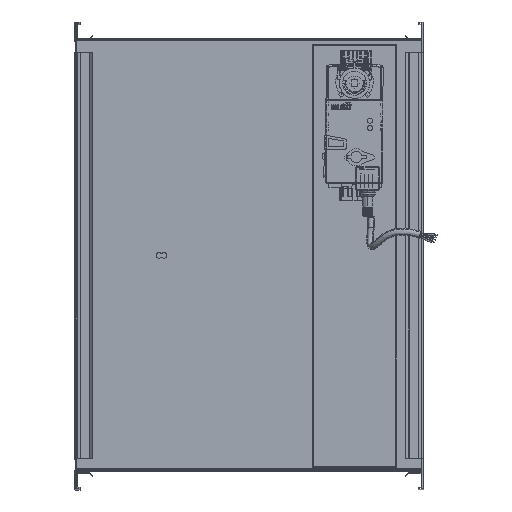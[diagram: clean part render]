
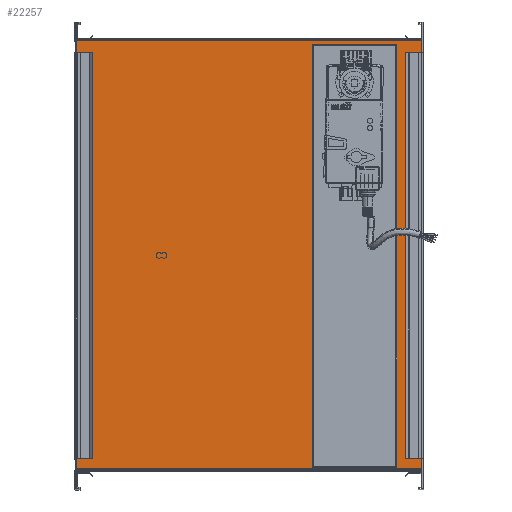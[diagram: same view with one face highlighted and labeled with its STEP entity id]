
A CAD part, top view. The second image highlights one B-rep face of the part: STEP entity #22257.
In plain terms, the highlighted planar face has unit normal (0, 0, 1).
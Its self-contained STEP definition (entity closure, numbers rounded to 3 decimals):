
#316 = CARTESIAN_POINT ( 'NONE',  ( -244.423, -233.848, 1500. ) ) ;
#2920 = CARTESIAN_POINT ( 'NONE',  ( 155.577, -233.848, 1500. ) ) ;
#3114 = VECTOR ( 'NONE', #21770, 1000. ) ;
#4159 = VECTOR ( 'NONE', #67789, 1000. ) ;
#5057 = CARTESIAN_POINT ( 'NONE',  ( 155.577, -233.848, 1500. ) ) ;
#5108 = CARTESIAN_POINT ( 'NONE',  ( 28.454, -232.348, 1500. ) ) ;
#5870 = EDGE_CURVE ( 'NONE', #27971, #62936, #72359, .T. ) ;
#8343 = DIRECTION ( 'NONE',  ( 0., 1., 0. ) ) ;
#9257 = ORIENTED_EDGE ( 'NONE', *, *, #83913, .T. ) ;
#11063 = ORIENTED_EDGE ( 'NONE', *, *, #13628, .F. ) ;
#11260 = CARTESIAN_POINT ( 'NONE',  ( -244.423, 262.152, 1500. ) ) ;
#13628 = EDGE_CURVE ( 'NONE', #57174, #19768, #16874, .T. ) ;
#15035 = EDGE_CURVE ( 'NONE', #23125, #57174, #70431, .T. ) ;
#16874 = LINE ( 'NONE', #29637, #83189 ) ;
#16964 = LINE ( 'NONE', #11260, #40986 ) ;
#17894 = DIRECTION ( 'NONE',  ( 1., 0., 0. ) ) ;
#19768 = VERTEX_POINT ( 'NONE', #56372 ) ;
#19952 = PLANE ( 'NONE',  #49289 ) ;
#21770 = DIRECTION ( 'NONE',  ( 0., -1., 0. ) ) ;
#21785 = CARTESIAN_POINT ( 'NONE',  ( -244.423, -233.848, 1500. ) ) ;
#22257 = ADVANCED_FACE ( 'NONE', ( #72372, #28862 ), #19952, .T. ) ;
#22948 = VECTOR ( 'NONE', #48609, 1000. ) ;
#23125 = VERTEX_POINT ( 'NONE', #52227 ) ;
#25842 = EDGE_CURVE ( 'NONE', #60914, #54596, #69846, .T. ) ;
#25931 = VECTOR ( 'NONE', #34464, 1000. ) ;
#27971 = VERTEX_POINT ( 'NONE', #39149 ) ;
#28862 = FACE_OUTER_BOUND ( 'NONE', #84451, .T. ) ;
#29637 = CARTESIAN_POINT ( 'NONE',  ( 126.454, -232.348, 1500. ) ) ;
#31067 = CARTESIAN_POINT ( 'NONE',  ( -244.423, -233.848, 1500. ) ) ;
#34464 = DIRECTION ( 'NONE',  ( 1., 0., 0. ) ) ;
#38317 = CARTESIAN_POINT ( 'NONE',  ( 28.454, 257.652, 1500. ) ) ;
#39149 = CARTESIAN_POINT ( 'NONE',  ( -244.423, 262.152, 1500. ) ) ;
#40986 = VECTOR ( 'NONE', #17894, 1000. ) ;
#42425 = EDGE_CURVE ( 'NONE', #52886, #23125, #56182, .T. ) ;
#46681 = EDGE_CURVE ( 'NONE', #19768, #52886, #67537, .T. ) ;
#48609 = DIRECTION ( 'NONE',  ( 0., -1., 0. ) ) ;
#49289 = AXIS2_PLACEMENT_3D ( 'NONE', #21785, #63449, #50603 ) ;
#50603 = DIRECTION ( 'NONE',  ( 1., 0., 0. ) ) ;
#51658 = DIRECTION ( 'NONE',  ( 0., -1., 0. ) ) ;
#52227 = CARTESIAN_POINT ( 'NONE',  ( 28.454, -232.348, 1500. ) ) ;
#52886 = VERTEX_POINT ( 'NONE', #38317 ) ;
#54488 = ORIENTED_EDGE ( 'NONE', *, *, #15035, .F. ) ;
#54596 = VERTEX_POINT ( 'NONE', #5057 ) ;
#55638 = EDGE_CURVE ( 'NONE', #27971, #60914, #16964, .T. ) ;
#55648 = ORIENTED_EDGE ( 'NONE', *, *, #55638, .F. ) ;
#56150 = EDGE_LOOP ( 'NONE', ( #63148, #11063, #54488, #69762 ) ) ;
#56182 = LINE ( 'NONE', #5108, #22948 ) ;
#56372 = CARTESIAN_POINT ( 'NONE',  ( 126.454, 257.652, 1500. ) ) ;
#57174 = VERTEX_POINT ( 'NONE', #85513 ) ;
#57268 = VECTOR ( 'NONE', #51658, 1000. ) ;
#58378 = CARTESIAN_POINT ( 'NONE',  ( -244.423, -233.848, 1500. ) ) ;
#59313 = LINE ( 'NONE', #58378, #4159 ) ;
#59725 = CARTESIAN_POINT ( 'NONE',  ( 155.577, 262.152, 1500. ) ) ;
#60914 = VERTEX_POINT ( 'NONE', #59725 ) ;
#62936 = VERTEX_POINT ( 'NONE', #316 ) ;
#63148 = ORIENTED_EDGE ( 'NONE', *, *, #46681, .F. ) ;
#63449 = DIRECTION ( 'NONE',  ( 0., 0., 1. ) ) ;
#66475 = ORIENTED_EDGE ( 'NONE', *, *, #5870, .T. ) ;
#67072 = CARTESIAN_POINT ( 'NONE',  ( 28.454, 257.652, 1500. ) ) ;
#67537 = LINE ( 'NONE', #67072, #83861 ) ;
#67789 = DIRECTION ( 'NONE',  ( 1., 0., 0. ) ) ;
#69762 = ORIENTED_EDGE ( 'NONE', *, *, #42425, .F. ) ;
#69846 = LINE ( 'NONE', #2920, #57268 ) ;
#70431 = LINE ( 'NONE', #78475, #25931 ) ;
#71754 = ORIENTED_EDGE ( 'NONE', *, *, #25842, .F. ) ;
#72359 = LINE ( 'NONE', #31067, #3114 ) ;
#72372 = FACE_BOUND ( 'NONE', #56150, .T. ) ;
#76079 = DIRECTION ( 'NONE',  ( -1., 0., 0. ) ) ;
#78475 = CARTESIAN_POINT ( 'NONE',  ( 28.454, -232.348, 1500. ) ) ;
#83189 = VECTOR ( 'NONE', #8343, 1000. ) ;
#83861 = VECTOR ( 'NONE', #76079, 1000. ) ;
#83913 = EDGE_CURVE ( 'NONE', #62936, #54596, #59313, .T. ) ;
#84451 = EDGE_LOOP ( 'NONE', ( #71754, #55648, #66475, #9257 ) ) ;
#85513 = CARTESIAN_POINT ( 'NONE',  ( 126.454, -232.348, 1500. ) ) ;
